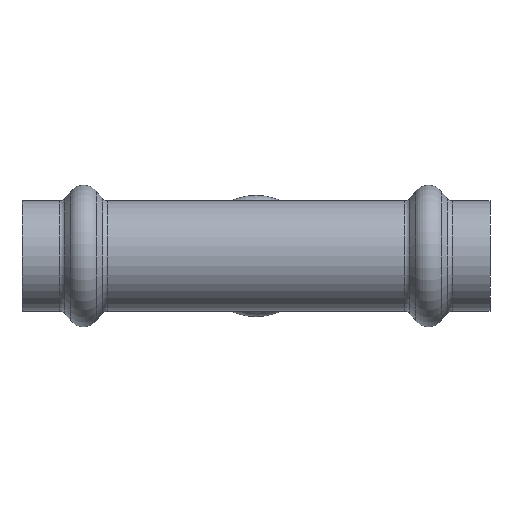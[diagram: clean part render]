
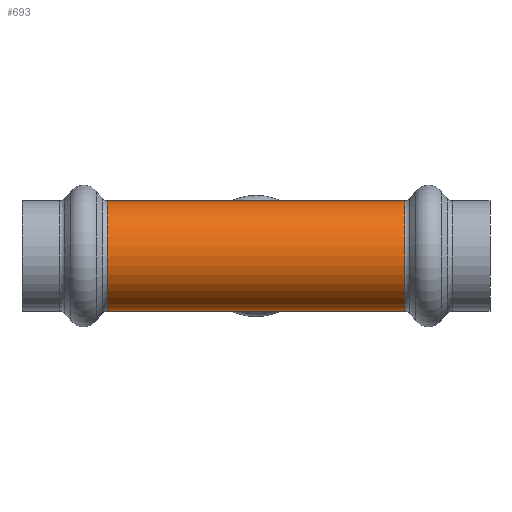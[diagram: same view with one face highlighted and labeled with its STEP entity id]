
A CAD part, front view. The second image highlights one B-rep face of the part: STEP entity #693.
In plain terms, the highlighted cylindrical face has radius 8.95 mm (diameter 17.9 mm), a partial arc.
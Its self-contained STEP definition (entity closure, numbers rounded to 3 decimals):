
#47 = DIRECTION ( 'NONE',  ( 0., 0., -1. ) ) ;
#51 = DIRECTION ( 'NONE',  ( 1., 0., 0. ) ) ;
#64 = CARTESIAN_POINT ( 'NONE',  ( -24.147, 0., 0. ) ) ;
#203 = CYLINDRICAL_SURFACE ( 'NONE', #2593, 8.95 ) ;
#529 = AXIS2_PLACEMENT_3D ( 'NONE', #64, #51, #47 ) ;
#652 = FACE_OUTER_BOUND ( 'NONE', #2777, .T. ) ;
#693 = ADVANCED_FACE ( 'NONE', ( #652 ), #203, .T. ) ;
#820 = VERTEX_POINT ( 'NONE', #3697 ) ;
#870 = VERTEX_POINT ( 'NONE', #3601 ) ;
#893 = DIRECTION ( 'NONE',  ( 0., 0., 1. ) ) ;
#1069 = CARTESIAN_POINT ( 'NONE',  ( -58.611, 0., 0. ) ) ;
#1102 = VERTEX_POINT ( 'NONE', #2350 ) ;
#1224 = CIRCLE ( 'NONE', #1467, 8.95 ) ;
#1416 = CIRCLE ( 'NONE', #529, 8.95 ) ;
#1467 = AXIS2_PLACEMENT_3D ( 'NONE', #3858, #3330, #893 ) ;
#1537 = DIRECTION ( 'NONE',  ( 0., 0., 1. ) ) ;
#1751 = CARTESIAN_POINT ( 'NONE',  ( -58.611, 0., 8.95 ) ) ;
#1755 = DIRECTION ( 'NONE',  ( -1., 0., 0. ) ) ;
#1813 = EDGE_CURVE ( 'NONE', #820, #3044, #3721, .T. ) ;
#1894 = LINE ( 'NONE', #1751, #1938 ) ;
#1938 = VECTOR ( 'NONE', #1755, 1000. ) ;
#1959 = DIRECTION ( 'NONE',  ( -1., 0., 0. ) ) ;
#2133 = CARTESIAN_POINT ( 'NONE',  ( -24.147, 0., -8.95 ) ) ;
#2142 = EDGE_CURVE ( 'NONE', #870, #1102, #1894, .T. ) ;
#2350 = CARTESIAN_POINT ( 'NONE',  ( -24.147, 0., 8.95 ) ) ;
#2578 = EDGE_CURVE ( 'NONE', #1102, #3044, #1416, .T. ) ;
#2593 = AXIS2_PLACEMENT_3D ( 'NONE', #1069, #1959, #1537 ) ;
#2777 = EDGE_LOOP ( 'NONE', ( #3932, #3817, #3769, #3402 ) ) ;
#2830 = DIRECTION ( 'NONE',  ( -1., 0., 0. ) ) ;
#2836 = CARTESIAN_POINT ( 'NONE',  ( -58.611, 0., -8.95 ) ) ;
#3044 = VERTEX_POINT ( 'NONE', #2133 ) ;
#3330 = DIRECTION ( 'NONE',  ( -1., 0., 0. ) ) ;
#3402 = ORIENTED_EDGE ( 'NONE', *, *, #2578, .T. ) ;
#3441 = EDGE_CURVE ( 'NONE', #820, #870, #1224, .T. ) ;
#3601 = CARTESIAN_POINT ( 'NONE',  ( 24.147, 0., 8.95 ) ) ;
#3697 = CARTESIAN_POINT ( 'NONE',  ( 24.147, 0., -8.95 ) ) ;
#3721 = LINE ( 'NONE', #2836, #3780 ) ;
#3769 = ORIENTED_EDGE ( 'NONE', *, *, #2142, .T. ) ;
#3780 = VECTOR ( 'NONE', #2830, 1000. ) ;
#3817 = ORIENTED_EDGE ( 'NONE', *, *, #3441, .T. ) ;
#3858 = CARTESIAN_POINT ( 'NONE',  ( 24.147, 0., 0. ) ) ;
#3932 = ORIENTED_EDGE ( 'NONE', *, *, #1813, .F. ) ;
